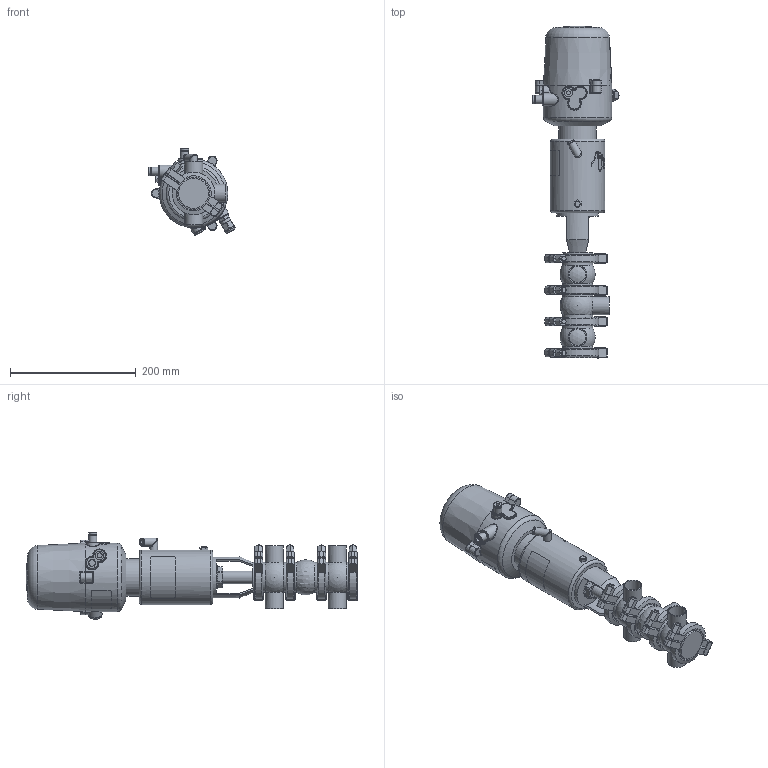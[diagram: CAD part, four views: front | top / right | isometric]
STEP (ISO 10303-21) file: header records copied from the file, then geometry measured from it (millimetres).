
FILE_DESCRIPTION (( 'STEP AP214' ), '1' );
FILE_NAME ('INNOVA L W W DIN 025 T1 AS NC & C-TOP S_10.241.16.0064.STEP', '2024-08-06T12:20:00', ( '' ), ( '' ), 'SwSTEP 2.0', 'SolidWorks 2023', '' );
FILE_SCHEMA (( 'AUTOMOTIVE_DESIGN' ));
Length unit declared in the file: millimetre
Products named in the file (9): INNOVA L W W DIN 025 T1 AS NC & C-TOP S_10.241.16.0064; 10.240.15.0007_DIN 025; 10.240.15.0017_Estàndard; 10.241.15.0001_DIN 025; 10.240.15.0014_T1 AS P180; 10.426.15.0001_C-TOP S - 1 EV; 10.240.15.0006_DIN 025; 10.240.15.0010_DN 025; 10.240.15.0001_DN 025
Assembly tree (12 placements, depth 2):
  INNOVA L W W DIN 025 T1 AS NC & C-TOP S_10.241.16.0064
    10.240.15.0007_DIN 025  x2
    10.240.15.0006_DIN 025
    10.240.15.0010_DN 025
    10.240.15.0014_T1 AS P180
    10.240.15.0017_Estàndard
    10.426.15.0001_C-TOP S - 1 EV
    10.240.15.0001_DN 025  x4
    10.241.15.0001_DIN 025
Bounding box: 136.88 x 528.09 x 137.63 mm (x, y, z)
Volume: 2695804.5 mm3; surface area: 289921.8 mm2
Topology: 13 solids, 13 shells, 1322 faces, 3243 edges, 2149 vertices
Faces by surface type: plane 479, cylinder 408, cone 225, bspline 160, torus 36, sphere 14
Full cylindrical faces by diameter (mm): 0.371 x17, 0.512 x16, 0.658 x16, 0.795 x16, 0.94 x15, 1.098 x15, 1.241 x13, 1.382 x13, 1.523 x11, 1.669 x10, 2.201 x1, 4 x2, 5.5 x2, 6 x2, 6.15 x1, 8 x10, 8.5 x1, 10 x1, 10.5 x1, 11 x2, 12.5 x3, 13 x2, 13.5 x2, 16 x1, 17 x3, 20 x3, 20.5 x1, 22 x2, 26 x5, 29 x5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
Entity records: 57289 total; most frequent: CARTESIAN_POINT 26751, ORIENTED_EDGE 4566, DIRECTION 3719, EDGE_CURVE 2283, VERTEX_POINT 1622, EDGE_LOOP 1579, AXIS2_PLACEMENT_3D 1527, FACE_OUTER_BOUND 1344
